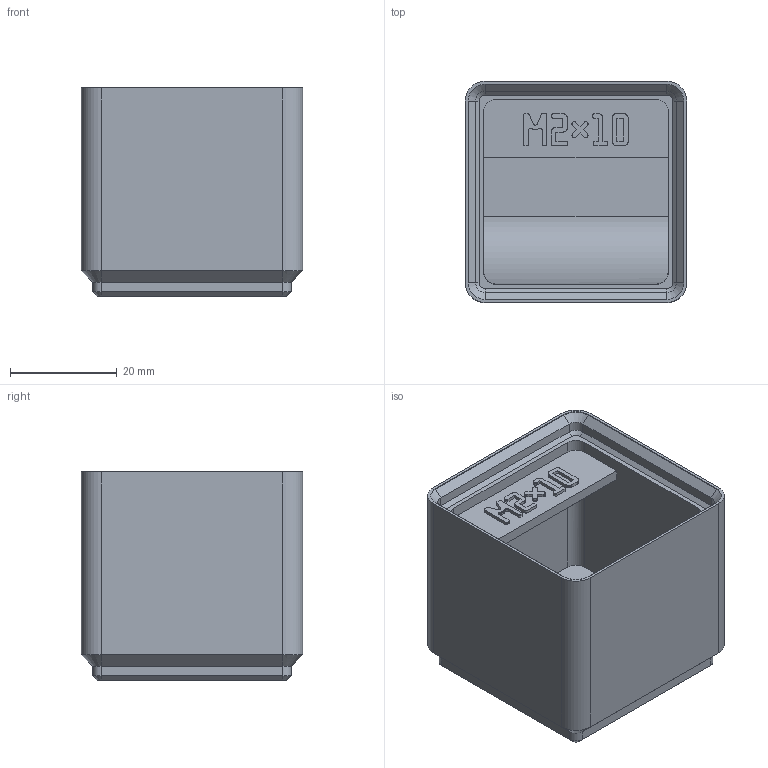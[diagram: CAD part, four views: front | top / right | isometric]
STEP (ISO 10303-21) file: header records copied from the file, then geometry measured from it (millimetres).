
FILE_DESCRIPTION(('Open CASCADE Model'),'2;1');
FILE_NAME('m2-screw-10','2026-11-17T16:07:52',('Author'),('Open CASCADE' ),'Open CASCADE STEP processor 8.0','build123d','Unknown');
FILE_SCHEMA(('AUTOMOTIVE_DESIGN { 1 0 10303 214 1 1 1 1 }'));
Length unit declared in the file: millimetre
Products named in the file (1): m2-screw-10
Bounding box: 41.5 x 41.5 x 39 mm (x, y, z)
Volume: 30862.2 mm3; surface area: 13678.9 mm2
Topology: 1 solids, 1 shells, 570 faces, 1632 edges, 1072 vertices
Faces by surface type: plane 531, cylinder 22, cone 16, extrusion 1
Entity records: 38654 total; most frequent: CARTESIAN_POINT 8028, DIRECTION 4959, VECTOR 3697, LINE 3696, ORIENTED_EDGE 3264, PCURVE 3264, DEFINITIONAL_REPRESENTATION 3264, EDGE_CURVE 1632
